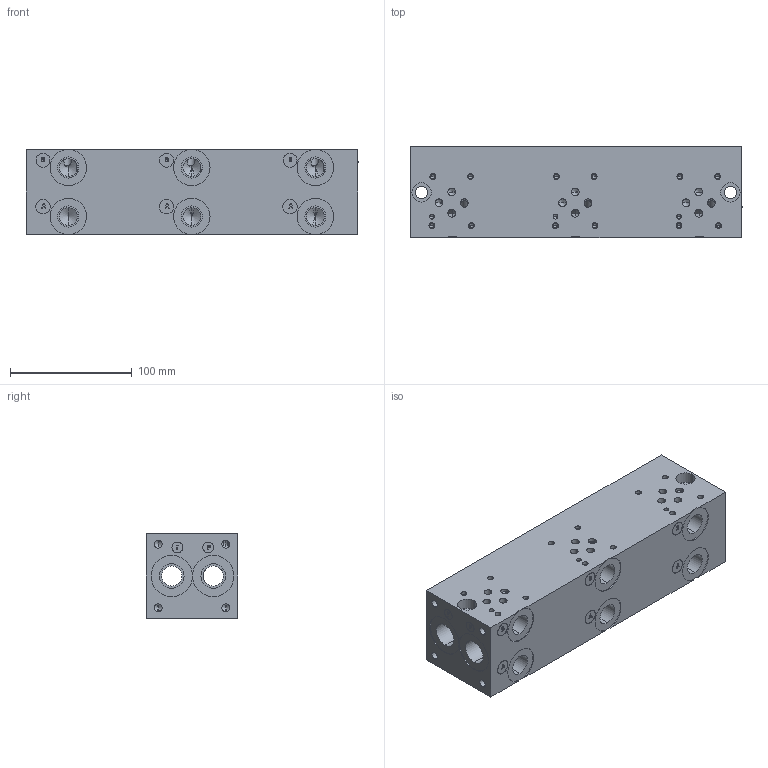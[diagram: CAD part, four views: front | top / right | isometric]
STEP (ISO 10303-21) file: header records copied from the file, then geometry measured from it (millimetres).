
FILE_DESCRIPTION (( 'STEP AP203' ), '1' );
FILE_NAME ('BM-ASP03S4-03-1_Z.STEP', '2015-01-06T15:42:31', ( '' ), ( '' ), 'SwSTEP 2.0', 'SolidWorks 2014', '' );
FILE_SCHEMA (( 'CONFIG_CONTROL_DESIGN' ));
Length unit declared in the file: inch
Products named in the file (1): BM-ASP03S4-03-1_Z
Bounding box: 273.05 x 74.93 x 69.85 mm (x, y, z)
Volume: 1236592.6 mm3; surface area: 143092.6 mm2
Topology: 1 solids, 1 shells, 468 faces, 1196 edges, 736 vertices
Faces by surface type: cylinder 186, plane 164, cone 79, bspline 39
Entity records: 16873 total; most frequent: CARTESIAN_POINT 5882, ORIENTED_EDGE 2252, DIRECTION 2183, EDGE_CURVE 1126, AXIS2_PLACEMENT_3D 791, VERTEX_POINT 736, VECTOR 601, LINE 601
